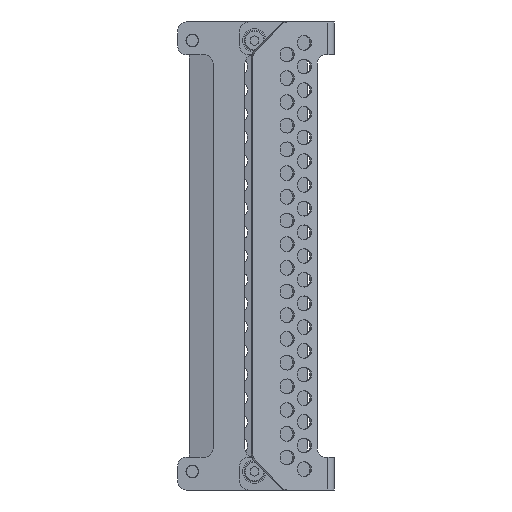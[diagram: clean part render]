
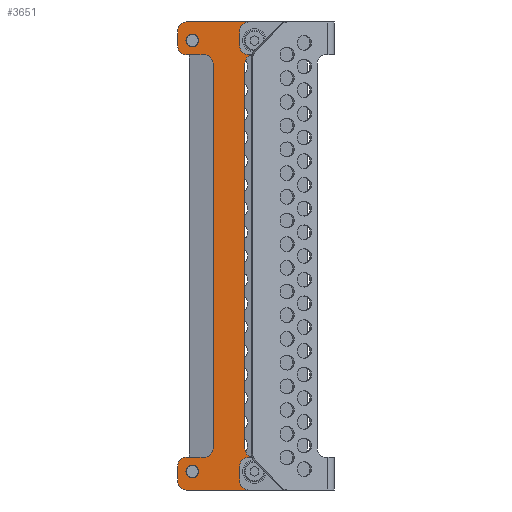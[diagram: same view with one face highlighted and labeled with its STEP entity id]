
A CAD part, front view. The second image highlights one B-rep face of the part: STEP entity #3651.
In plain terms, the highlighted free-form (B-spline) face has degree [1, 1] with [2, 2] control points.
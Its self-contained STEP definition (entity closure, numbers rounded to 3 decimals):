
#121=DIRECTION('',(1.,0.,0.));
#122=VECTOR('',#121,26.);
#123=CARTESIAN_POINT('',(-46.9,196.5,-79.));
#124=LINE('',#123,#122);
#1041=DIRECTION('',(-1.,0.,0.));
#1042=VECTOR('',#1041,26.);
#1043=CARTESIAN_POINT('',(-20.9,196.5,79.));
#1044=LINE('',#1043,#1042);
#1045=CARTESIAN_POINT('',(-46.9,196.5,-76.));
#1046=DIRECTION('',(0.,-1.,0.));
#1047=DIRECTION('',(-1.,0.,0.));
#1048=AXIS2_PLACEMENT_3D('',#1045,#1046,#1047);
#1050=DIRECTION('',(0.,0.,-1.));
#1051=VECTOR('',#1050,5.);
#1052=CARTESIAN_POINT('',(-49.9,196.5,-71.));
#1053=LINE('',#1052,#1051);
#1054=CARTESIAN_POINT('',(-46.9,196.5,-71.));
#1055=DIRECTION('',(0.,-1.,0.));
#1056=DIRECTION('',(0.,0.,1.));
#1057=AXIS2_PLACEMENT_3D('',#1054,#1055,#1056);
#1059=DIRECTION('',(-1.,0.,0.));
#1060=VECTOR('',#1059,6.);
#1061=CARTESIAN_POINT('',(-40.9,196.5,-68.));
#1062=LINE('',#1061,#1060);
#1063=DIRECTION('',(0.,0.,1.));
#1064=VECTOR('',#1063,130.);
#1065=CARTESIAN_POINT('',(-37.9,196.5,-65.));
#1066=LINE('',#1065,#1064);
#1067=DIRECTION('',(1.,0.,0.));
#1068=VECTOR('',#1067,6.);
#1069=CARTESIAN_POINT('',(-46.9,196.5,68.));
#1070=LINE('',#1069,#1068);
#1071=CARTESIAN_POINT('',(-46.9,196.5,71.));
#1072=DIRECTION('',(0.,-1.,0.));
#1073=DIRECTION('',(-1.,0.,0.));
#1074=AXIS2_PLACEMENT_3D('',#1071,#1072,#1073);
#1076=DIRECTION('',(0.,0.,-1.));
#1077=VECTOR('',#1076,5.);
#1078=CARTESIAN_POINT('',(-49.9,196.5,76.));
#1079=LINE('',#1078,#1077);
#1080=CARTESIAN_POINT('',(-46.9,196.5,76.));
#1081=DIRECTION('',(0.,-1.,0.));
#1082=DIRECTION('',(0.,0.,1.));
#1083=AXIS2_PLACEMENT_3D('',#1080,#1081,#1082);
#1085=DIRECTION('',(0.,0.,-1.));
#1086=VECTOR('',#1085,11.);
#1087=CARTESIAN_POINT('',(-20.9,196.5,79.));
#1088=LINE('',#1087,#1086);
#1089=DIRECTION('',(-1.,0.,0.));
#1090=VECTOR('',#1089,3.25);
#1091=CARTESIAN_POINT('',(-20.9,196.5,68.));
#1092=LINE('',#1091,#1090);
#1093=DIRECTION('',(0.,0.,-1.));
#1094=VECTOR('',#1093,130.);
#1095=CARTESIAN_POINT('',(-27.15,196.5,65.));
#1096=LINE('',#1095,#1094);
#1097=DIRECTION('',(-1.,0.,0.));
#1098=VECTOR('',#1097,3.25);
#1099=CARTESIAN_POINT('',(-20.9,196.5,-68.));
#1100=LINE('',#1099,#1098);
#1101=DIRECTION('',(0.,0.,-1.));
#1102=VECTOR('',#1101,11.);
#1103=CARTESIAN_POINT('',(-20.9,196.5,-68.));
#1104=LINE('',#1103,#1102);
#1105=CARTESIAN_POINT('',(-44.9,196.5,72.75));
#1106=DIRECTION('',(0.,-1.,0.));
#1107=DIRECTION('',(0.,0.,1.));
#1108=AXIS2_PLACEMENT_3D('',#1105,#1106,#1107);
#1110=CARTESIAN_POINT('',(-44.9,196.5,72.75));
#1111=DIRECTION('',(0.,-1.,0.));
#1112=DIRECTION('',(0.,0.,-1.));
#1113=AXIS2_PLACEMENT_3D('',#1110,#1111,#1112);
#1115=CARTESIAN_POINT('',(-44.9,196.5,-72.75));
#1116=DIRECTION('',(0.,-1.,0.));
#1117=DIRECTION('',(0.,0.,1.));
#1118=AXIS2_PLACEMENT_3D('',#1115,#1116,#1117);
#1120=CARTESIAN_POINT('',(-44.9,196.5,-72.75));
#1121=DIRECTION('',(0.,-1.,0.));
#1122=DIRECTION('',(0.,0.,-1.));
#1123=AXIS2_PLACEMENT_3D('',#1120,#1121,#1122);
#1141=CARTESIAN_POINT('',(-40.9,196.5,-65.));
#1142=DIRECTION('',(0.,1.,0.));
#1143=DIRECTION('',(1.,0.,0.));
#1144=AXIS2_PLACEMENT_3D('',#1141,#1142,#1143);
#1168=CARTESIAN_POINT('',(-40.9,196.5,65.));
#1169=DIRECTION('',(0.,1.,0.));
#1170=DIRECTION('',(0.,0.,1.));
#1171=AXIS2_PLACEMENT_3D('',#1168,#1169,#1170);
#1277=CARTESIAN_POINT('',(-24.15,196.5,-65.));
#1278=DIRECTION('',(0.,1.,0.));
#1279=DIRECTION('',(0.,0.,-1.));
#1280=AXIS2_PLACEMENT_3D('',#1277,#1278,#1279);
#1290=CARTESIAN_POINT('',(-24.15,196.5,65.));
#1291=DIRECTION('',(0.,1.,0.));
#1292=DIRECTION('',(-1.,0.,0.));
#1293=AXIS2_PLACEMENT_3D('',#1290,#1291,#1292);
#2122=CARTESIAN_POINT('',(-20.9,196.5,-79.));
#2124=VERTEX_POINT('',#2122);
#2125=CARTESIAN_POINT('',(-20.9,196.5,79.));
#2127=VERTEX_POINT('',#2125);
#2282=CARTESIAN_POINT('',(-37.9,196.5,65.));
#2284=VERTEX_POINT('',#2282);
#2286=CARTESIAN_POINT('',(-40.9,196.5,68.));
#2288=VERTEX_POINT('',#2286);
#2289=CARTESIAN_POINT('',(-37.9,196.5,-65.));
#2291=VERTEX_POINT('',#2289);
#2293=CARTESIAN_POINT('',(-40.9,196.5,-68.));
#2295=VERTEX_POINT('',#2293);
#2297=CARTESIAN_POINT('',(-44.9,196.5,74.9));
#2298=CARTESIAN_POINT('',(-44.9,196.5,70.6));
#2299=VERTEX_POINT('',#2297);
#2300=VERTEX_POINT('',#2298);
#2301=CARTESIAN_POINT('',(-44.9,196.5,-70.6));
#2302=CARTESIAN_POINT('',(-44.9,196.5,-74.9));
#2303=VERTEX_POINT('',#2301);
#2304=VERTEX_POINT('',#2302);
#2314=CARTESIAN_POINT('',(-20.9,196.5,68.));
#2316=VERTEX_POINT('',#2314);
#2318=CARTESIAN_POINT('',(-20.9,196.5,-68.));
#2320=VERTEX_POINT('',#2318);
#2329=CARTESIAN_POINT('',(-27.15,196.5,65.));
#2330=CARTESIAN_POINT('',(-27.15,196.5,-65.));
#2331=VERTEX_POINT('',#2329);
#2332=VERTEX_POINT('',#2330);
#2333=CARTESIAN_POINT('',(-24.15,196.5,68.));
#2334=VERTEX_POINT('',#2333);
#2335=CARTESIAN_POINT('',(-24.15,196.5,-68.));
#2336=VERTEX_POINT('',#2335);
#2533=CARTESIAN_POINT('',(-49.9,196.5,-76.));
#2534=VERTEX_POINT('',#2533);
#2535=CARTESIAN_POINT('',(-46.9,196.5,-79.));
#2536=VERTEX_POINT('',#2535);
#2541=CARTESIAN_POINT('',(-46.9,196.5,-68.));
#2542=VERTEX_POINT('',#2541);
#2543=CARTESIAN_POINT('',(-49.9,196.5,-71.));
#2544=VERTEX_POINT('',#2543);
#2549=CARTESIAN_POINT('',(-49.9,196.5,71.));
#2550=VERTEX_POINT('',#2549);
#2551=CARTESIAN_POINT('',(-46.9,196.5,68.));
#2552=VERTEX_POINT('',#2551);
#2557=CARTESIAN_POINT('',(-46.9,196.5,79.));
#2558=VERTEX_POINT('',#2557);
#2559=CARTESIAN_POINT('',(-49.9,196.5,76.));
#2560=VERTEX_POINT('',#2559);
#3596=CARTESIAN_POINT('',(-50.48,196.5,-82.16));
#3597=CARTESIAN_POINT('',(-50.48,196.5,82.16));
#3598=CARTESIAN_POINT('',(-20.32,196.5,-82.16));
#3599=CARTESIAN_POINT('',(-20.32,196.5,82.16));
#3600=B_SPLINE_SURFACE_WITH_KNOTS('',1,1,((#3596,#3597),(#3598,#3599)),
.UNSPECIFIED.,.F.,.F.,.F.,(2,2),(2,2),(-12.58,17.58),(-3.16,161.16),
.UNSPECIFIED.);
#3601=ORIENTED_EDGE('',*,*,#2724,.F.);
#3603=ORIENTED_EDGE('',*,*,#3602,.F.);
#3605=ORIENTED_EDGE('',*,*,#3604,.F.);
#3607=ORIENTED_EDGE('',*,*,#3606,.F.);
#3609=ORIENTED_EDGE('',*,*,#3608,.F.);
#3611=ORIENTED_EDGE('',*,*,#3610,.T.);
#3613=ORIENTED_EDGE('',*,*,#3612,.F.);
#3615=ORIENTED_EDGE('',*,*,#3614,.F.);
#3617=ORIENTED_EDGE('',*,*,#3616,.F.);
#3619=ORIENTED_EDGE('',*,*,#3618,.F.);
#3620=ORIENTED_EDGE('',*,*,#3582,.F.);
#3621=ORIENTED_EDGE('',*,*,#3553,.F.);
#3623=ORIENTED_EDGE('',*,*,#3622,.T.);
#3625=ORIENTED_EDGE('',*,*,#3624,.T.);
#3627=ORIENTED_EDGE('',*,*,#3626,.F.);
#3629=ORIENTED_EDGE('',*,*,#3628,.T.);
#3631=ORIENTED_EDGE('',*,*,#3630,.F.);
#3633=ORIENTED_EDGE('',*,*,#3632,.F.);
#3635=ORIENTED_EDGE('',*,*,#3634,.T.);
#3636=ORIENTED_EDGE('',*,*,#2821,.F.);
#3637=EDGE_LOOP('',(#3601,#3603,#3605,#3607,#3609,#3611,#3613,#3615,#3617,#3619,
#3620,#3621,#3623,#3625,#3627,#3629,#3631,#3633,#3635,#3636));
#3638=FACE_OUTER_BOUND('',#3637,.F.);
#3640=ORIENTED_EDGE('',*,*,#3639,.T.);
#3642=ORIENTED_EDGE('',*,*,#3641,.T.);
#3643=EDGE_LOOP('',(#3640,#3642));
#3644=FACE_BOUND('',#3643,.F.);
#3646=ORIENTED_EDGE('',*,*,#3645,.T.);
#3648=ORIENTED_EDGE('',*,*,#3647,.T.);
#3649=EDGE_LOOP('',(#3646,#3648));
#3650=FACE_BOUND('',#3649,.F.);
#3651=ADVANCED_FACE('',(#3638,#3644,#3650),#3600,.T.);
#1049=CIRCLE('',#1048,3.);
#1058=CIRCLE('',#1057,3.);
#1075=CIRCLE('',#1074,3.);
#1084=CIRCLE('',#1083,3.);
#1109=CIRCLE('',#1108,2.15);
#1114=CIRCLE('',#1113,2.15);
#1119=CIRCLE('',#1118,2.15);
#1124=CIRCLE('',#1123,2.15);
#1145=CIRCLE('',#1144,3.);
#1172=CIRCLE('',#1171,3.);
#1281=CIRCLE('',#1280,3.);
#1294=CIRCLE('',#1293,3.);
#2724=EDGE_CURVE('',#2534,#2536,#1049,.T.);
#2821=EDGE_CURVE('',#2536,#2124,#124,.T.);
#3553=EDGE_CURVE('',#2127,#2558,#1044,.T.);
#3582=EDGE_CURVE('',#2558,#2560,#1084,.T.);
#3602=EDGE_CURVE('',#2544,#2534,#1053,.T.);
#3604=EDGE_CURVE('',#2542,#2544,#1058,.T.);
#3606=EDGE_CURVE('',#2295,#2542,#1062,.T.);
#3608=EDGE_CURVE('',#2291,#2295,#1145,.T.);
#3610=EDGE_CURVE('',#2291,#2284,#1066,.T.);
#3612=EDGE_CURVE('',#2288,#2284,#1172,.T.);
#3614=EDGE_CURVE('',#2552,#2288,#1070,.T.);
#3616=EDGE_CURVE('',#2550,#2552,#1075,.T.);
#3618=EDGE_CURVE('',#2560,#2550,#1079,.T.);
#3622=EDGE_CURVE('',#2127,#2316,#1088,.T.);
#3624=EDGE_CURVE('',#2316,#2334,#1092,.T.);
#3626=EDGE_CURVE('',#2331,#2334,#1294,.T.);
#3628=EDGE_CURVE('',#2331,#2332,#1096,.T.);
#3630=EDGE_CURVE('',#2336,#2332,#1281,.T.);
#3632=EDGE_CURVE('',#2320,#2336,#1100,.T.);
#3634=EDGE_CURVE('',#2320,#2124,#1104,.T.);
#3639=EDGE_CURVE('',#2299,#2300,#1109,.T.);
#3641=EDGE_CURVE('',#2300,#2299,#1114,.T.);
#3645=EDGE_CURVE('',#2303,#2304,#1119,.T.);
#3647=EDGE_CURVE('',#2304,#2303,#1124,.T.);
